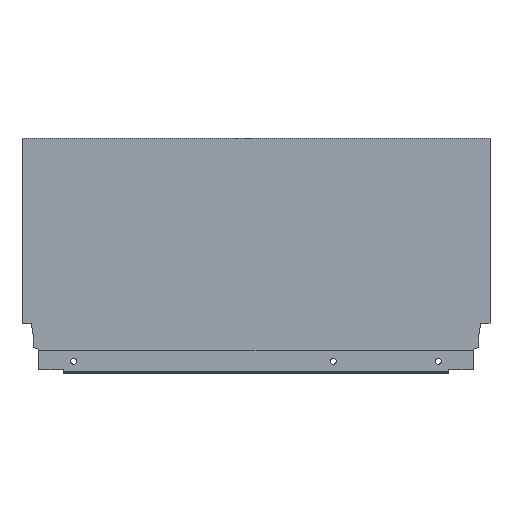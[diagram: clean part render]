
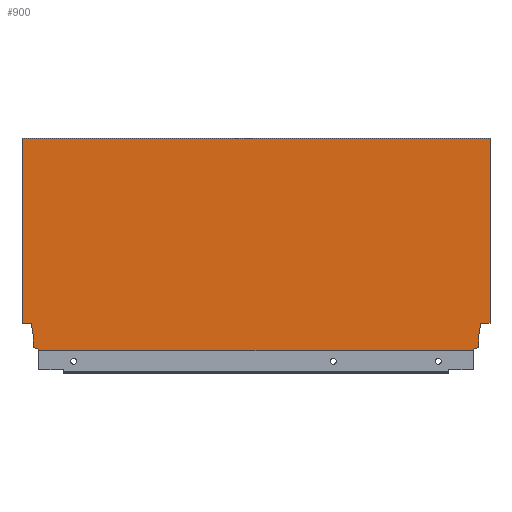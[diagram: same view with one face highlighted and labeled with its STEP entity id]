
A CAD part, top view. The second image highlights one B-rep face of the part: STEP entity #900.
In plain terms, the highlighted planar face has unit normal (0, 0, 1).
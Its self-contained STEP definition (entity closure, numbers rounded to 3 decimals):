
#110 = EDGE_CURVE ( 'NONE', #810, #809, #1507, .T. ) ;
#112 = EDGE_CURVE ( 'NONE', #213, #807, #1511, .T. ) ;
#114 = EDGE_CURVE ( 'NONE', #762, #784, #1515, .T. ) ;
#115 = EDGE_CURVE ( 'NONE', #843, #213, #1517, .T. ) ;
#117 = EDGE_CURVE ( 'NONE', #772, #762, #1521, .T. ) ;
#118 = EDGE_CURVE ( 'NONE', #809, #734, #1523, .T. ) ;
#119 = EDGE_CURVE ( 'NONE', #842, #214, #1525, .T. ) ;
#121 = EDGE_CURVE ( 'NONE', #822, #214, #1527, .T. ) ;
#125 = EDGE_CURVE ( 'NONE', #810, #807, #1498, .T. ) ;
#153 = AXIS2_PLACEMENT_3D ( 'NONE', #465, #476, #475 ) ;
#178 = EDGE_CURVE ( 'NONE', #759, #772, #1406, .T. ) ;
#179 = EDGE_CURVE ( 'NONE', #822, #759, #1160, .T. ) ;
#180 = EDGE_CURVE ( 'NONE', #734, #837, #1162, .T. ) ;
#181 = EDGE_CURVE ( 'NONE', #784, #843, #1164, .T. ) ;
#182 = EDGE_CURVE ( 'NONE', #837, #842, #1283, .T. ) ;
#213 = VERTEX_POINT ( 'NONE', #722 ) ;
#214 = VERTEX_POINT ( 'NONE', #729 ) ;
#273 = CARTESIAN_POINT ( 'NONE',  ( 0., 0., 7.5 ) ) ;
#276 = DIRECTION ( 'NONE',  ( 0., -1., 0. ) ) ;
#277 = DIRECTION ( 'NONE',  ( -0.94, -0.342, 0. ) ) ;
#278 = CARTESIAN_POINT ( 'NONE',  ( -8.9, 2.64, 7.5 ) ) ;
#279 = CARTESIAN_POINT ( 'NONE',  ( -363., 164.7, 7.5 ) ) ;
#280 = DIRECTION ( 'NONE',  ( 1., 0., 0. ) ) ;
#281 = DIRECTION ( 'NONE',  ( -0.174, -0.985, 0. ) ) ;
#282 = CARTESIAN_POINT ( 'NONE',  ( -363., 0., 7.5 ) ) ;
#283 = CARTESIAN_POINT ( 'NONE',  ( -7.06, 21.2, 7.5 ) ) ;
#284 = CARTESIAN_POINT ( 'NONE',  ( -354.1, 10.765, 7.5 ) ) ;
#285 = DIRECTION ( 'NONE',  ( 0., 1., 0. ) ) ;
#287 = DIRECTION ( 'NONE',  ( 0., 1., 0. ) ) ;
#289 = CARTESIAN_POINT ( 'NONE',  ( -13.004, 1.146, 7.5 ) ) ;
#291 = CARTESIAN_POINT ( 'NONE',  ( -8.9, 10.765, 7.5 ) ) ;
#292 = DIRECTION ( 'NONE',  ( 1., 0., 0. ) ) ;
#293 = DIRECTION ( 'NONE',  ( 0., -1., 0. ) ) ;
#294 = DIRECTION ( 'NONE',  ( 0., -1., 0. ) ) ;
#296 = CARTESIAN_POINT ( 'NONE',  ( -368., 21.2, 7.5 ) ) ;
#300 = CARTESIAN_POINT ( 'NONE',  ( -349.996, 1.146, 7.5 ) ) ;
#302 = DIRECTION ( 'NONE',  ( -0.94, 0.342, 0. ) ) ;
#303 = CARTESIAN_POINT ( 'NONE',  ( -354.1, 2.64, 7.5 ) ) ;
#304 = CARTESIAN_POINT ( 'NONE',  ( -363., 0., 7.5 ) ) ;
#306 = DIRECTION ( 'NONE',  ( 0., -1., 0. ) ) ;
#308 = DIRECTION ( 'NONE',  ( -1., 0., 0. ) ) ;
#311 = CARTESIAN_POINT ( 'NONE',  ( 0., 21.2, 7.5 ) ) ;
#317 = DIRECTION ( 'NONE',  ( -1., 0., 0. ) ) ;
#461 = PLANE ( 'NONE',  #153 ) ;
#465 = CARTESIAN_POINT ( 'NONE',  ( -363., 0., 7.5 ) ) ;
#475 = DIRECTION ( 'NONE',  ( 1., 0., 0. ) ) ;
#476 = DIRECTION ( 'NONE',  ( 0., 0., 1. ) ) ;
#633 = CARTESIAN_POINT ( 'NONE',  ( -8.9, 2.64, 7.5 ) ) ;
#640 = CARTESIAN_POINT ( 'NONE',  ( -355.94, 21.2, 7.5 ) ) ;
#653 = CARTESIAN_POINT ( 'NONE',  ( -354.1, 10.765, 7.5 ) ) ;
#667 = CARTESIAN_POINT ( 'NONE',  ( 0., 164.7, 7.5 ) ) ;
#672 = CARTESIAN_POINT ( 'NONE',  ( -7.06, 21.2, 7.5 ) ) ;
#683 = CARTESIAN_POINT ( 'NONE',  ( 0., 21.2, 7.5 ) ) ;
#695 = CARTESIAN_POINT ( 'NONE',  ( -8.9, 10.765, 7.5 ) ) ;
#704 = CARTESIAN_POINT ( 'NONE',  ( -363., 164.7, 7.5 ) ) ;
#712 = CARTESIAN_POINT ( 'NONE',  ( -13.004, 0., 7.5 ) ) ;
#714 = CARTESIAN_POINT ( 'NONE',  ( -349.996, 0., 7.5 ) ) ;
#715 = CARTESIAN_POINT ( 'NONE',  ( -349.996, 1.146, 7.5 ) ) ;
#720 = CARTESIAN_POINT ( 'NONE',  ( -354.1, 2.64, 7.5 ) ) ;
#722 = CARTESIAN_POINT ( 'NONE',  ( -13.004, 1.146, 7.5 ) ) ;
#723 = DIRECTION ( 'NONE',  ( -0.174, 0.985, 0. ) ) ;
#729 = CARTESIAN_POINT ( 'NONE',  ( -363., 21.2, 7.5 ) ) ;
#731 = CARTESIAN_POINT ( 'NONE',  ( -355.94, 21.2, 7.5 ) ) ;
#734 = VERTEX_POINT ( 'NONE', #720 ) ;
#759 = VERTEX_POINT ( 'NONE', #667 ) ;
#762 = VERTEX_POINT ( 'NONE', #672 ) ;
#772 = VERTEX_POINT ( 'NONE', #683 ) ;
#784 = VERTEX_POINT ( 'NONE', #695 ) ;
#807 = VERTEX_POINT ( 'NONE', #712 ) ;
#809 = VERTEX_POINT ( 'NONE', #715 ) ;
#810 = VERTEX_POINT ( 'NONE', #714 ) ;
#822 = VERTEX_POINT ( 'NONE', #704 ) ;
#837 = VERTEX_POINT ( 'NONE', #653 ) ;
#842 = VERTEX_POINT ( 'NONE', #640 ) ;
#843 = VERTEX_POINT ( 'NONE', #633 ) ;
#900 = ADVANCED_FACE ( 'NONE', ( #915 ), #461, .T. ) ;
#915 = FACE_OUTER_BOUND ( 'NONE', #1190, .T. ) ;
#985 = ORIENTED_EDGE ( 'NONE', *, *, #178, .F. ) ;
#1000 = ORIENTED_EDGE ( 'NONE', *, *, #114, .F. ) ;
#1002 = ORIENTED_EDGE ( 'NONE', *, *, #117, .F. ) ;
#1010 = ORIENTED_EDGE ( 'NONE', *, *, #181, .F. ) ;
#1012 = ORIENTED_EDGE ( 'NONE', *, *, #182, .F. ) ;
#1013 = ORIENTED_EDGE ( 'NONE', *, *, #180, .F. ) ;
#1014 = ORIENTED_EDGE ( 'NONE', *, *, #118, .F. ) ;
#1015 = ORIENTED_EDGE ( 'NONE', *, *, #110, .F. ) ;
#1016 = ORIENTED_EDGE ( 'NONE', *, *, #125, .T. ) ;
#1036 = ORIENTED_EDGE ( 'NONE', *, *, #121, .T. ) ;
#1037 = ORIENTED_EDGE ( 'NONE', *, *, #119, .F. ) ;
#1039 = ORIENTED_EDGE ( 'NONE', *, *, #115, .F. ) ;
#1044 = ORIENTED_EDGE ( 'NONE', *, *, #112, .F. ) ;
#1069 = ORIENTED_EDGE ( 'NONE', *, *, #179, .F. ) ;
#1159 = VECTOR ( 'NONE', #276, 1000. ) ;
#1160 = LINE ( 'NONE', #279, #1161 ) ;
#1161 = VECTOR ( 'NONE', #280, 1000. ) ;
#1162 = LINE ( 'NONE', #284, #1163 ) ;
#1163 = VECTOR ( 'NONE', #287, 1000. ) ;
#1164 = LINE ( 'NONE', #291, #1282 ) ;
#1190 = EDGE_LOOP ( 'NONE', ( #1036, #1037, #1012, #1013, #1014, #1015, #1016, #1044, #1039, #1010, #1000, #1002, #985, #1069 ) ) ;
#1282 = VECTOR ( 'NONE', #294, 1000. ) ;
#1283 = LINE ( 'NONE', #731, #1540 ) ;
#1406 = LINE ( 'NONE', #273, #1159 ) ;
#1498 = LINE ( 'NONE', #282, #1529 ) ;
#1507 = LINE ( 'NONE', #300, #1508 ) ;
#1508 = VECTOR ( 'NONE', #285, 1000. ) ;
#1511 = LINE ( 'NONE', #289, #1512 ) ;
#1512 = VECTOR ( 'NONE', #293, 1000. ) ;
#1515 = LINE ( 'NONE', #283, #1516 ) ;
#1516 = VECTOR ( 'NONE', #281, 1000. ) ;
#1517 = LINE ( 'NONE', #278, #1518 ) ;
#1518 = VECTOR ( 'NONE', #277, 1000. ) ;
#1521 = LINE ( 'NONE', #311, #1522 ) ;
#1522 = VECTOR ( 'NONE', #308, 1000. ) ;
#1523 = LINE ( 'NONE', #303, #1524 ) ;
#1524 = VECTOR ( 'NONE', #302, 1000. ) ;
#1525 = LINE ( 'NONE', #296, #1526 ) ;
#1526 = VECTOR ( 'NONE', #317, 1000. ) ;
#1527 = LINE ( 'NONE', #304, #1528 ) ;
#1528 = VECTOR ( 'NONE', #306, 1000. ) ;
#1529 = VECTOR ( 'NONE', #292, 1000. ) ;
#1540 = VECTOR ( 'NONE', #723, 1000. ) ;
